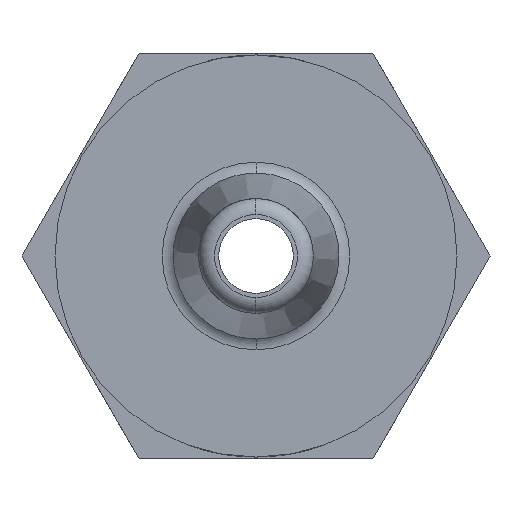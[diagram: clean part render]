
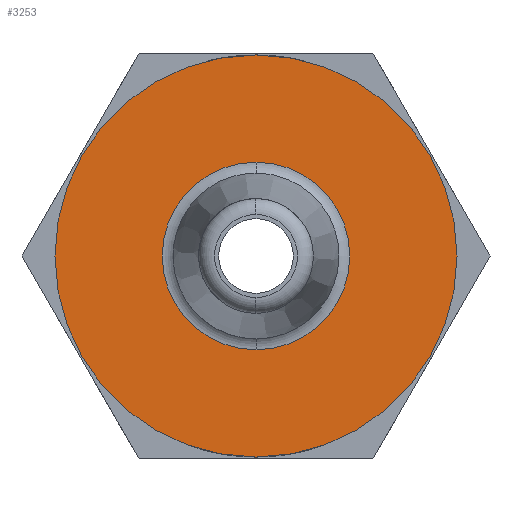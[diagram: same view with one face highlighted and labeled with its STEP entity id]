
A CAD part, left-side view. The second image highlights one B-rep face of the part: STEP entity #3253.
In plain terms, the highlighted planar face has unit normal (-1, 0, 0).
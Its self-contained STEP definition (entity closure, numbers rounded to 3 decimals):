
#66=FACE_BOUND('',#511,.T.);
#81=PLANE('',#3561);
#331=FACE_OUTER_BOUND('',#510,.T.);
#510=EDGE_LOOP('',(#2479,#2480));
#511=EDGE_LOOP('',(#2481,#2482));
#700=CIRCLE('',#3466,3.15);
#735=CIRCLE('',#3502,3.15);
#743=CIRCLE('',#3517,1.469);
#773=CIRCLE('',#3562,1.469);
#1393=VERTEX_POINT('',#5511);
#1394=VERTEX_POINT('',#5513);
#1499=VERTEX_POINT('',#6286);
#1500=VERTEX_POINT('',#6287);
#1746=EDGE_CURVE('',#1394,#1393,#700,.T.);
#1818=EDGE_CURVE('',#1393,#1394,#735,.T.);
#1868=EDGE_CURVE('',#1499,#1500,#743,.T.);
#1918=EDGE_CURVE('',#1500,#1499,#773,.T.);
#2479=ORIENTED_EDGE('',*,*,#1746,.T.);
#2480=ORIENTED_EDGE('',*,*,#1818,.T.);
#2481=ORIENTED_EDGE('',*,*,#1918,.T.);
#2482=ORIENTED_EDGE('',*,*,#1868,.T.);
#3253=ADVANCED_FACE('',(#331,#66),#81,.F.);
#3466=AXIS2_PLACEMENT_3D('',#5514,#3831,#3832);
#3502=AXIS2_PLACEMENT_3D('',#5748,#3934,#3935);
#3517=AXIS2_PLACEMENT_3D('',#6288,#3972,#3973);
#3561=AXIS2_PLACEMENT_3D('',#6388,#4079,#4080);
#3562=AXIS2_PLACEMENT_3D('',#6389,#4081,#4082);
#3831=DIRECTION('center_axis',(-1.,0.,0.));
#3832=DIRECTION('ref_axis',(0.,0.,1.));
#3934=DIRECTION('center_axis',(-1.,0.,0.));
#3935=DIRECTION('ref_axis',(0.,0.,
-1.));
#3972=DIRECTION('center_axis',(1.,0.,0.));
#3973=DIRECTION('ref_axis',(0.,0.,
1.));
#4079=DIRECTION('center_axis',(1.,0.,0.));
#4080=DIRECTION('ref_axis',(0.,0.,-1.));
#4081=DIRECTION('center_axis',(1.,0.,0.));
#4082=DIRECTION('ref_axis',(0.,0.,-1.));
#5511=CARTESIAN_POINT('',(-6.225,0.,-3.15));
#5513=CARTESIAN_POINT('',(-6.225,0.,3.15));
#5514=CARTESIAN_POINT('Origin',(-6.225,0.,0.));
#5748=CARTESIAN_POINT('Origin',(-6.225,0.,0.));
#6286=CARTESIAN_POINT('',(-6.225,0.,1.469));
#6287=CARTESIAN_POINT('',(-6.225,0.,-1.469));
#6288=CARTESIAN_POINT('Origin',(-6.225,0.,0.));
#6388=CARTESIAN_POINT('Origin',(-6.225,-3.188,0.));
#6389=CARTESIAN_POINT('Origin',(-6.225,0.,0.));
